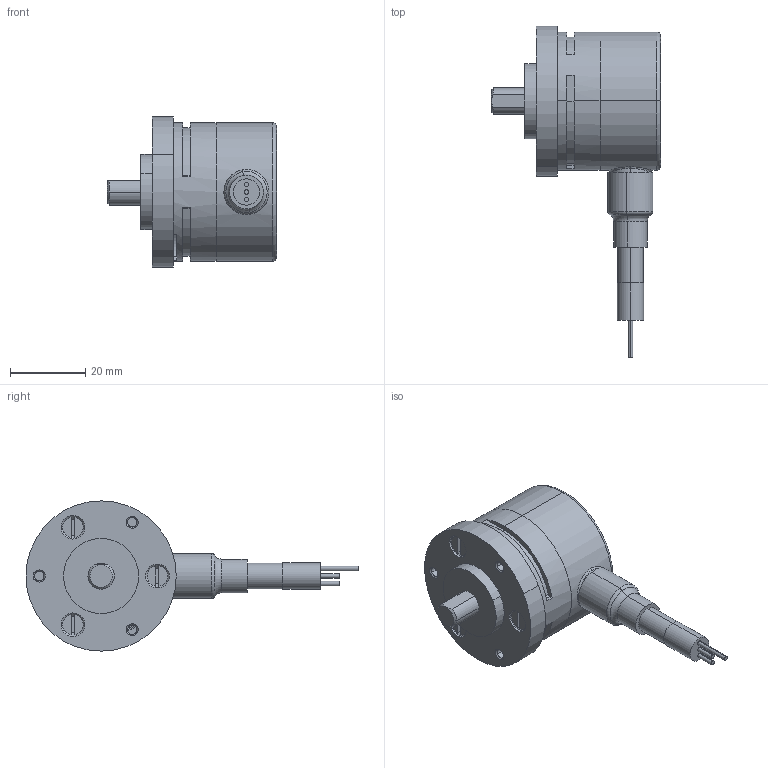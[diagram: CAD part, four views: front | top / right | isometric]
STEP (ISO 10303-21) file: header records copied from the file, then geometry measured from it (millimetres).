
FILE_DESCRIPTION (( 'STEP AP214' ), '1' );
FILE_NAME ('3700.A5X2.XXXX.STEP', '2008-11-25T08:58:05', ( 'admin' ), ( 'Fritz Kübler GmbH' ), 'SwSTEP 2.0', 'SolidWorks 2008', '' );
FILE_SCHEMA (( 'AUTOMOTIVE_DESIGN' ));
Length unit declared in the file: millimetre
Products named in the file (1): 3700.A5X2.XXXX
Bounding box: 45 x 88.4 x 40 mm (x, y, z)
Volume: 21257.5 mm3; surface area: 20920 mm2
Topology: 9 solids, 9 shells, 575 faces, 1360 edges, 821 vertices
Faces by surface type: cylinder 241, plane 140, torus 92, cone 48, bspline 29, sphere 25
Entity records: 24291 total; most frequent: CARTESIAN_POINT 4581, DIRECTION 3002, ORIENTED_EDGE 2674, EDGE_CURVE 1337, AXIS2_PLACEMENT_3D 1274, VERTEX_POINT 811, CIRCLE 727, EDGE_LOOP 626
